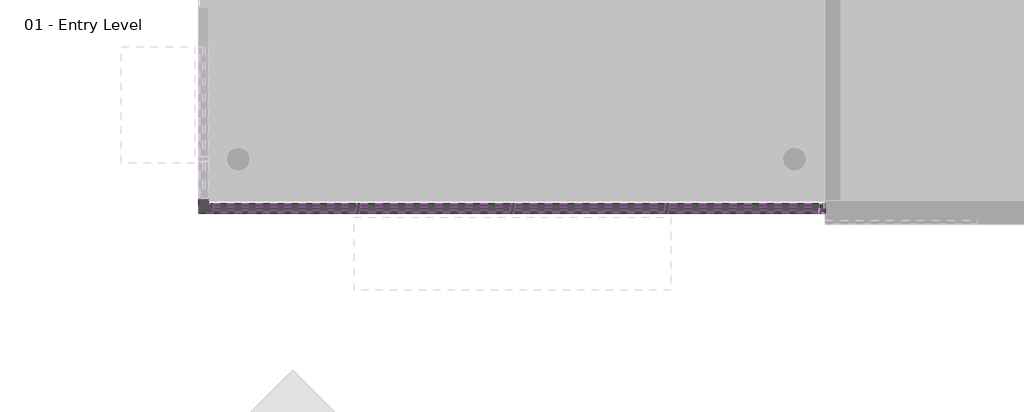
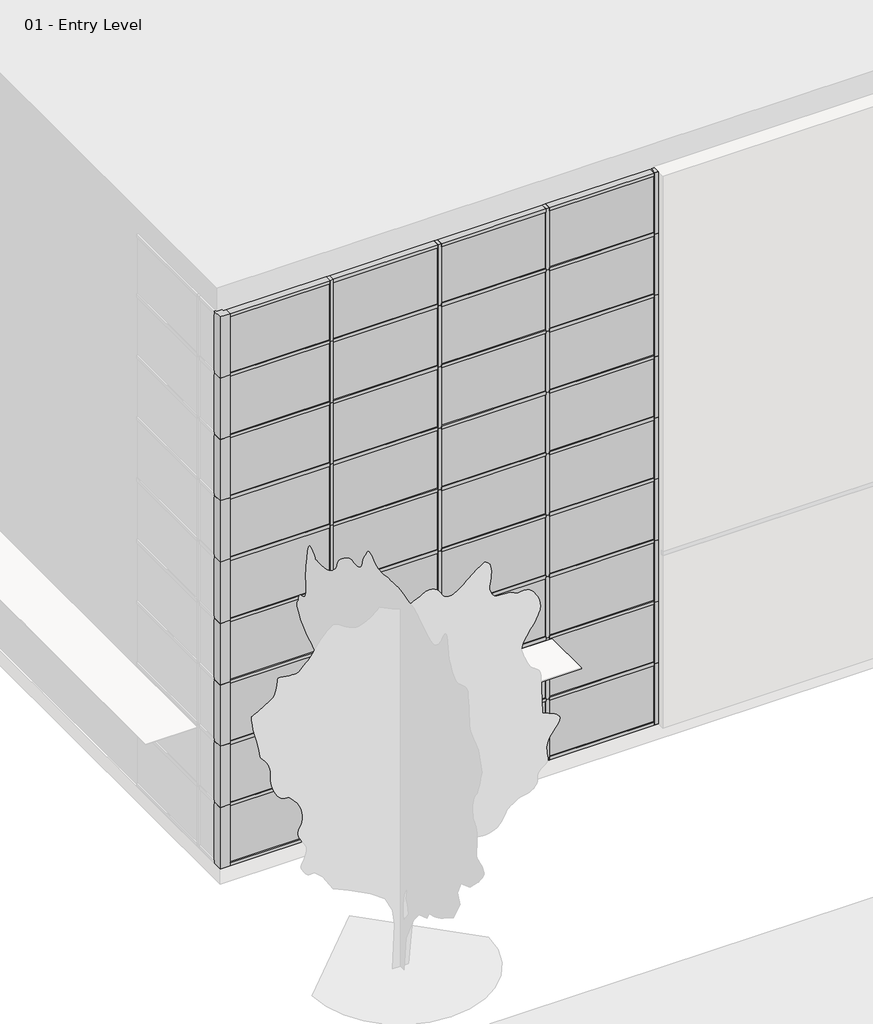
# One storey, part 1 of 34: 93 members, 36 plates.
"""IFC4 building model written with IfcOpenShell, lengths in millimetres."""

from ifc_helpers import new_model, si_unit, origin, place, context, project, spatial, transform, mapped, element, save
from components import member_6230916f, member_2b49869a, member_75074519, member_391b434c, member_9e90ae50, member_9822c4e5, member_b50b2218, system_panel_glazed_1b9d6098, system_panel_glazed_70da479d, system_panel_glazed_01db37db, system_panel_glazed_0a464ab8, system_panel_solid_b376696c, system_panel_solid_77e8b053, system_panel_solid_7d77b356, system_panel_solid_9c486990

model = new_model("IFC4")

# Units and contexts
model_context = context("Model", 3, world=origin())
ifc_project = project(units=[si_unit("LENGTHUNIT", "METRE", prefix="MILLI")], contexts=[model_context])

# Site, building, storey
site = spatial("IfcSite", under=ifc_project)
building = spatial("IfcBuilding", under=site)
storey = spatial("IfcBuildingStorey", under=building, Name="01 - Entry Level", Elevation=0.0)

# Members
placement = place(None, origin())
member_shape = member_6230916f(model_context)
element("IfcMember", 1, ObjectType="L Corner Mullion : 5\" x 5\" Corner", at=placement, inside=storey, context=model_context, shape_type="MappedRepresentation", body=[
    mapped(member_shape, transform((178.7207476, -47.7, 10972.8), x_axis=(-1.0, 0.0, 0.0), y_axis=(0.0, -1.0, 0.0), z_axis=(0.0, 0.0, 1.0))),
])
element("IfcMember", 2, ObjectType="L Corner Mullion : 5\" x 5\" Corner", at=placement, inside=storey, context=model_context, shape_type="MappedRepresentation", body=[
    mapped(member_shape, transform((178.7207476, -47.7, 1219.2), x_axis=(-1.0, 0.0, 0.0), y_axis=(0.0, -1.0, 0.0), z_axis=(0.0, 0.0, 1.0))),
])
element("IfcMember", 3, ObjectType="L Corner Mullion : 5\" x 5\" Corner", at=placement, inside=storey, context=model_context, shape_type="MappedRepresentation", body=[
    mapped(member_shape, transform((178.7207476, -47.7, 2438.4), x_axis=(-1.0, 0.0, 0.0), y_axis=(0.0, -1.0, 0.0), z_axis=(0.0, 0.0, 1.0))),
])
element("IfcMember", 4, ObjectType="L Corner Mullion : 5\" x 5\" Corner", at=placement, inside=storey, context=model_context, shape_type="MappedRepresentation", body=[
    mapped(member_shape, transform((178.7207476, -47.7, 3657.6), x_axis=(-1.0, 0.0, 0.0), y_axis=(0.0, -1.0, 0.0), z_axis=(0.0, 0.0, 1.0))),
])
element("IfcMember", 5, ObjectType="L Corner Mullion : 5\" x 5\" Corner", at=placement, inside=storey, context=model_context, shape_type="MappedRepresentation", body=[
    mapped(member_shape, transform((178.7207476, -47.7, 4876.8), x_axis=(-1.0, 0.0, 0.0), y_axis=(0.0, -1.0, 0.0), z_axis=(0.0, 0.0, 1.0))),
])
element("IfcMember", 6, ObjectType="L Corner Mullion : 5\" x 5\" Corner", at=placement, inside=storey, context=model_context, shape_type="MappedRepresentation", body=[
    mapped(member_shape, transform((178.7207476, -47.7, 6096.0), x_axis=(-1.0, 0.0, 0.0), y_axis=(0.0, -1.0, 0.0), z_axis=(0.0, 0.0, 1.0))),
])
element("IfcMember", 7, ObjectType="L Corner Mullion : 5\" x 5\" Corner", at=placement, inside=storey, context=model_context, shape_type="MappedRepresentation", body=[
    mapped(member_shape, transform((178.7207476, -47.7, 7315.2), x_axis=(-1.0, 0.0, 0.0), y_axis=(0.0, -1.0, 0.0), z_axis=(0.0, 0.0, 1.0))),
])
element("IfcMember", 8, ObjectType="L Corner Mullion : 5\" x 5\" Corner", at=placement, inside=storey, context=model_context, shape_type="MappedRepresentation", body=[
    mapped(member_shape, transform((178.7207476, -47.7, 8534.4), x_axis=(-1.0, 0.0, 0.0), y_axis=(0.0, -1.0, 0.0), z_axis=(0.0, 0.0, 1.0))),
])
element("IfcMember", 9, ObjectType="L Corner Mullion : 5\" x 5\" Corner", at=placement, inside=storey, context=model_context, shape_type="MappedRepresentation", body=[
    mapped(member_shape, transform((178.7207476, -47.7, 9753.6), x_axis=(-1.0, 0.0, 0.0), y_axis=(0.0, -1.0, 0.0), z_axis=(0.0, 0.0, 1.0))),
])
member_2_shape = member_2b49869a(model_context)
element("IfcMember", 10, ObjectType="Rectangular Mullion : 2.5\" x 5\" rectangular", at=placement, inside=storey, context=model_context, shape_type="MappedRepresentation", body=[
    mapped(member_2_shape, transform((2210.7207476, -47.7, 9753.6), x_axis=(1.0, 0.0, 0.0), y_axis=(0.0, -1.0, 0.0), z_axis=(0.0, 0.0, -1.0))),
])
element("IfcMember", 11, ObjectType="Rectangular Mullion : 2.5\" x 5\" rectangular", at=placement, inside=storey, context=model_context, shape_type="MappedRepresentation", body=[
    mapped(member_2_shape, transform((4242.7207476, -47.7, 9753.6), x_axis=(1.0, 0.0, 0.0), y_axis=(0.0, -1.0, 0.0), z_axis=(0.0, 0.0, -1.0))),
])
element("IfcMember", 12, ObjectType="Rectangular Mullion : 2.5\" x 5\" rectangular", at=placement, inside=storey, context=model_context, shape_type="MappedRepresentation", body=[
    mapped(member_2_shape, transform((6274.7207476, -47.7, 9753.6), x_axis=(1.0, 0.0, 0.0), y_axis=(0.0, -1.0, 0.0), z_axis=(0.0, 0.0, -1.0))),
])
member_3_shape = member_75074519(model_context)
element("IfcMember", 13, ObjectType="Rectangular Mullion : 2.5\" x 5\" rectangular", at=placement, inside=storey, context=model_context, shape_type="MappedRepresentation", body=[
    mapped(member_3_shape, transform((8357.5207476, -47.7, 9753.6), x_axis=(1.0, 0.0, 0.0), y_axis=(0.0, -1.0, 0.0), z_axis=(0.0, 0.0, -1.0))),
])
member_4_shape = member_391b434c(model_context)
element("IfcMember", 14, ObjectType="Rectangular Mullion : 2.5\" x 5\" rectangular", at=placement, inside=storey, context=model_context, shape_type="MappedRepresentation", body=[
    mapped(member_4_shape, transform((4210.9707476, -47.7, 10972.8), x_axis=(0.0, 0.0, 1.0), y_axis=(0.0, -1.0, 0.0), z_axis=(1.0, 0.0, 0.0))),
])
element("IfcMember", 15, ObjectType="Rectangular Mullion : 2.5\" x 5\" rectangular", at=placement, inside=storey, context=model_context, shape_type="MappedRepresentation", body=[
    mapped(member_4_shape, transform((6242.9707476, -47.7, 10972.8), x_axis=(0.0, 0.0, 1.0), y_axis=(0.0, -1.0, 0.0), z_axis=(1.0, 0.0, 0.0))),
])
element("IfcMember", 16, ObjectType="Rectangular Mullion : 2.5\" x 5\" rectangular", at=placement, inside=storey, context=model_context, shape_type="MappedRepresentation", body=[
    mapped(member_4_shape, transform((8274.9707476, -47.7, 10972.8), x_axis=(0.0, 0.0, 1.0), y_axis=(0.0, -1.0, 0.0), z_axis=(1.0, 0.0, 0.0))),
])
element("IfcMember", 17, ObjectType="Rectangular Mullion : 2.5\" x 5\" rectangular", at=placement, inside=storey, context=model_context, shape_type="MappedRepresentation", body=[
    mapped(member_4_shape, transform((2242.4707476, -47.7, 0.0), x_axis=(0.0, 0.0, -1.0), y_axis=(0.0, -1.0, 0.0), z_axis=(-1.0, 0.0, 0.0))),
])
element("IfcMember", 18, ObjectType="Rectangular Mullion : 2.5\" x 5\" rectangular", at=placement, inside=storey, context=model_context, shape_type="MappedRepresentation", body=[
    mapped(member_4_shape, transform((4274.4707476, -47.7, 0.0), x_axis=(0.0, 0.0, -1.0), y_axis=(0.0, -1.0, 0.0), z_axis=(-1.0, 0.0, 0.0))),
])
element("IfcMember", 19, ObjectType="Rectangular Mullion : 2.5\" x 5\" rectangular", at=placement, inside=storey, context=model_context, shape_type="MappedRepresentation", body=[
    mapped(member_4_shape, transform((6306.4707476, -47.7, 0.0), x_axis=(0.0, 0.0, -1.0), y_axis=(0.0, -1.0, 0.0), z_axis=(-1.0, 0.0, 0.0))),
])
member_5_shape = member_9e90ae50(model_context)
element("IfcMember", 20, ObjectType="Rectangular Mullion : 2.5\" x 5\" rectangular", at=placement, inside=storey, context=model_context, shape_type="MappedRepresentation", body=[
    mapped(member_5_shape, transform((4210.9707476, -47.7, 1219.2), x_axis=(0.0, 0.0, 1.0), y_axis=(0.0, -1.0, 0.0), z_axis=(1.0, 0.0, 0.0))),
])
element("IfcMember", 21, ObjectType="Rectangular Mullion : 2.5\" x 5\" rectangular", at=placement, inside=storey, context=model_context, shape_type="MappedRepresentation", body=[
    mapped(member_5_shape, transform((6242.9707476, -47.7, 1219.2), x_axis=(0.0, 0.0, 1.0), y_axis=(0.0, -1.0, 0.0), z_axis=(1.0, 0.0, 0.0))),
])
element("IfcMember", 22, ObjectType="Rectangular Mullion : 2.5\" x 5\" rectangular", at=placement, inside=storey, context=model_context, shape_type="MappedRepresentation", body=[
    mapped(member_5_shape, transform((8274.9707476, -47.7, 1219.2), x_axis=(0.0, 0.0, 1.0), y_axis=(0.0, -1.0, 0.0), z_axis=(1.0, 0.0, 0.0))),
])
element("IfcMember", 23, ObjectType="Rectangular Mullion : 2.5\" x 5\" rectangular", at=placement, inside=storey, context=model_context, shape_type="MappedRepresentation", body=[
    mapped(member_5_shape, transform((4210.9707476, -47.7, 2438.4), x_axis=(0.0, 0.0, 1.0), y_axis=(0.0, -1.0, 0.0), z_axis=(1.0, 0.0, 0.0))),
])
element("IfcMember", 24, ObjectType="Rectangular Mullion : 2.5\" x 5\" rectangular", at=placement, inside=storey, context=model_context, shape_type="MappedRepresentation", body=[
    mapped(member_5_shape, transform((6242.9707476, -47.7, 2438.4), x_axis=(0.0, 0.0, 1.0), y_axis=(0.0, -1.0, 0.0), z_axis=(1.0, 0.0, 0.0))),
])
element("IfcMember", 25, ObjectType="Rectangular Mullion : 2.5\" x 5\" rectangular", at=placement, inside=storey, context=model_context, shape_type="MappedRepresentation", body=[
    mapped(member_5_shape, transform((8274.9707476, -47.7, 2438.4), x_axis=(0.0, 0.0, 1.0), y_axis=(0.0, -1.0, 0.0), z_axis=(1.0, 0.0, 0.0))),
])
element("IfcMember", 26, ObjectType="Rectangular Mullion : 2.5\" x 5\" rectangular", at=placement, inside=storey, context=model_context, shape_type="MappedRepresentation", body=[
    mapped(member_5_shape, transform((4210.9707476, -47.7, 3657.6), x_axis=(0.0, 0.0, 1.0), y_axis=(0.0, -1.0, 0.0), z_axis=(1.0, 0.0, 0.0))),
])
element("IfcMember", 27, ObjectType="Rectangular Mullion : 2.5\" x 5\" rectangular", at=placement, inside=storey, context=model_context, shape_type="MappedRepresentation", body=[
    mapped(member_5_shape, transform((6242.9707476, -47.7, 3657.6), x_axis=(0.0, 0.0, 1.0), y_axis=(0.0, -1.0, 0.0), z_axis=(1.0, 0.0, 0.0))),
])
element("IfcMember", 28, ObjectType="Rectangular Mullion : 2.5\" x 5\" rectangular", at=placement, inside=storey, context=model_context, shape_type="MappedRepresentation", body=[
    mapped(member_5_shape, transform((8274.9707476, -47.7, 3657.6), x_axis=(0.0, 0.0, 1.0), y_axis=(0.0, -1.0, 0.0), z_axis=(1.0, 0.0, 0.0))),
])
element("IfcMember", 29, ObjectType="Rectangular Mullion : 2.5\" x 5\" rectangular", at=placement, inside=storey, context=model_context, shape_type="MappedRepresentation", body=[
    mapped(member_5_shape, transform((4210.9707476, -47.7, 4876.8), x_axis=(0.0, 0.0, 1.0), y_axis=(0.0, -1.0, 0.0), z_axis=(1.0, 0.0, 0.0))),
])
element("IfcMember", 30, ObjectType="Rectangular Mullion : 2.5\" x 5\" rectangular", at=placement, inside=storey, context=model_context, shape_type="MappedRepresentation", body=[
    mapped(member_5_shape, transform((6242.9707476, -47.7, 4876.8), x_axis=(0.0, 0.0, 1.0), y_axis=(0.0, -1.0, 0.0), z_axis=(1.0, 0.0, 0.0))),
])
element("IfcMember", 31, ObjectType="Rectangular Mullion : 2.5\" x 5\" rectangular", at=placement, inside=storey, context=model_context, shape_type="MappedRepresentation", body=[
    mapped(member_5_shape, transform((8274.9707476, -47.7, 4876.8), x_axis=(0.0, 0.0, 1.0), y_axis=(0.0, -1.0, 0.0), z_axis=(1.0, 0.0, 0.0))),
])
element("IfcMember", 32, ObjectType="Rectangular Mullion : 2.5\" x 5\" rectangular", at=placement, inside=storey, context=model_context, shape_type="MappedRepresentation", body=[
    mapped(member_5_shape, transform((4210.9707476, -47.7, 6096.0), x_axis=(0.0, 0.0, 1.0), y_axis=(0.0, -1.0, 0.0), z_axis=(1.0, 0.0, 0.0))),
])
element("IfcMember", 33, ObjectType="Rectangular Mullion : 2.5\" x 5\" rectangular", at=placement, inside=storey, context=model_context, shape_type="MappedRepresentation", body=[
    mapped(member_5_shape, transform((6242.9707476, -47.7, 6096.0), x_axis=(0.0, 0.0, 1.0), y_axis=(0.0, -1.0, 0.0), z_axis=(1.0, 0.0, 0.0))),
])
element("IfcMember", 34, ObjectType="Rectangular Mullion : 2.5\" x 5\" rectangular", at=placement, inside=storey, context=model_context, shape_type="MappedRepresentation", body=[
    mapped(member_5_shape, transform((8274.9707476, -47.7, 6096.0), x_axis=(0.0, 0.0, 1.0), y_axis=(0.0, -1.0, 0.0), z_axis=(1.0, 0.0, 0.0))),
])
element("IfcMember", 35, ObjectType="Rectangular Mullion : 2.5\" x 5\" rectangular", at=placement, inside=storey, context=model_context, shape_type="MappedRepresentation", body=[
    mapped(member_5_shape, transform((4210.9707476, -47.7, 7315.2), x_axis=(0.0, 0.0, 1.0), y_axis=(0.0, -1.0, 0.0), z_axis=(1.0, 0.0, 0.0))),
])
element("IfcMember", 36, ObjectType="Rectangular Mullion : 2.5\" x 5\" rectangular", at=placement, inside=storey, context=model_context, shape_type="MappedRepresentation", body=[
    mapped(member_5_shape, transform((6242.9707476, -47.7, 7315.2), x_axis=(0.0, 0.0, 1.0), y_axis=(0.0, -1.0, 0.0), z_axis=(1.0, 0.0, 0.0))),
])
element("IfcMember", 37, ObjectType="Rectangular Mullion : 2.5\" x 5\" rectangular", at=placement, inside=storey, context=model_context, shape_type="MappedRepresentation", body=[
    mapped(member_5_shape, transform((8274.9707476, -47.7, 7315.2), x_axis=(0.0, 0.0, 1.0), y_axis=(0.0, -1.0, 0.0), z_axis=(1.0, 0.0, 0.0))),
])
element("IfcMember", 38, ObjectType="Rectangular Mullion : 2.5\" x 5\" rectangular", at=placement, inside=storey, context=model_context, shape_type="MappedRepresentation", body=[
    mapped(member_5_shape, transform((4210.9707476, -47.7, 8534.4), x_axis=(0.0, 0.0, 1.0), y_axis=(0.0, -1.0, 0.0), z_axis=(1.0, 0.0, 0.0))),
])
element("IfcMember", 39, ObjectType="Rectangular Mullion : 2.5\" x 5\" rectangular", at=placement, inside=storey, context=model_context, shape_type="MappedRepresentation", body=[
    mapped(member_5_shape, transform((6242.9707476, -47.7, 8534.4), x_axis=(0.0, 0.0, 1.0), y_axis=(0.0, -1.0, 0.0), z_axis=(1.0, 0.0, 0.0))),
])
element("IfcMember", 40, ObjectType="Rectangular Mullion : 2.5\" x 5\" rectangular", at=placement, inside=storey, context=model_context, shape_type="MappedRepresentation", body=[
    mapped(member_5_shape, transform((8274.9707476, -47.7, 8534.4), x_axis=(0.0, 0.0, 1.0), y_axis=(0.0, -1.0, 0.0), z_axis=(1.0, 0.0, 0.0))),
])
element("IfcMember", 41, ObjectType="Rectangular Mullion : 2.5\" x 5\" rectangular", at=placement, inside=storey, context=model_context, shape_type="MappedRepresentation", body=[
    mapped(member_5_shape, transform((4210.9707476, -47.7, 9753.6), x_axis=(0.0, 0.0, 1.0), y_axis=(0.0, -1.0, 0.0), z_axis=(1.0, 0.0, 0.0))),
])
element("IfcMember", 42, ObjectType="Rectangular Mullion : 2.5\" x 5\" rectangular", at=placement, inside=storey, context=model_context, shape_type="MappedRepresentation", body=[
    mapped(member_5_shape, transform((6242.9707476, -47.7, 9753.6), x_axis=(0.0, 0.0, 1.0), y_axis=(0.0, -1.0, 0.0), z_axis=(1.0, 0.0, 0.0))),
])
element("IfcMember", 43, ObjectType="Rectangular Mullion : 2.5\" x 5\" rectangular", at=placement, inside=storey, context=model_context, shape_type="MappedRepresentation", body=[
    mapped(member_5_shape, transform((8274.9707476, -47.7, 9753.6), x_axis=(0.0, 0.0, 1.0), y_axis=(0.0, -1.0, 0.0), z_axis=(1.0, 0.0, 0.0))),
])
element("IfcMember", 44, ObjectType="Rectangular Mullion : 2.5\" x 5\" rectangular", at=placement, inside=storey, context=model_context, shape_type="MappedRepresentation", body=[
    mapped(member_2_shape, transform((2210.7207476, -47.7, 0.0), x_axis=(1.0, 0.0, 0.0), y_axis=(0.0, -1.0, 0.0), z_axis=(0.0, 0.0, -1.0))),
])
element("IfcMember", 45, ObjectType="Rectangular Mullion : 2.5\" x 5\" rectangular", at=placement, inside=storey, context=model_context, shape_type="MappedRepresentation", body=[
    mapped(member_2_shape, transform((4242.7207476, -47.7, 0.0), x_axis=(1.0, 0.0, 0.0), y_axis=(0.0, -1.0, 0.0), z_axis=(0.0, 0.0, -1.0))),
])
element("IfcMember", 46, ObjectType="Rectangular Mullion : 2.5\" x 5\" rectangular", at=placement, inside=storey, context=model_context, shape_type="MappedRepresentation", body=[
    mapped(member_2_shape, transform((6274.7207476, -47.7, 0.0), x_axis=(1.0, 0.0, 0.0), y_axis=(0.0, -1.0, 0.0), z_axis=(0.0, 0.0, -1.0))),
])
element("IfcMember", 47, ObjectType="Rectangular Mullion : 2.5\" x 5\" rectangular", at=placement, inside=storey, context=model_context, shape_type="MappedRepresentation", body=[
    mapped(member_2_shape, transform((8306.7207476, -47.7, 0.0), x_axis=(1.0, 0.0, 0.0), y_axis=(0.0, -1.0, 0.0), z_axis=(0.0, 0.0, -1.0))),
])
element("IfcMember", 48, ObjectType="Rectangular Mullion : 2.5\" x 5\" rectangular", at=placement, inside=storey, context=model_context, shape_type="MappedRepresentation", body=[
    mapped(member_2_shape, transform((2210.7207476, -47.7, 1219.2), x_axis=(1.0, 0.0, 0.0), y_axis=(0.0, -1.0, 0.0), z_axis=(0.0, 0.0, -1.0))),
])
element("IfcMember", 49, ObjectType="Rectangular Mullion : 2.5\" x 5\" rectangular", at=placement, inside=storey, context=model_context, shape_type="MappedRepresentation", body=[
    mapped(member_2_shape, transform((4242.7207476, -47.7, 1219.2), x_axis=(1.0, 0.0, 0.0), y_axis=(0.0, -1.0, 0.0), z_axis=(0.0, 0.0, -1.0))),
])
element("IfcMember", 50, ObjectType="Rectangular Mullion : 2.5\" x 5\" rectangular", at=placement, inside=storey, context=model_context, shape_type="MappedRepresentation", body=[
    mapped(member_2_shape, transform((6274.7207476, -47.7, 1219.2), x_axis=(1.0, 0.0, 0.0), y_axis=(0.0, -1.0, 0.0), z_axis=(0.0, 0.0, -1.0))),
])
element("IfcMember", 51, ObjectType="Rectangular Mullion : 2.5\" x 5\" rectangular", at=placement, inside=storey, context=model_context, shape_type="MappedRepresentation", body=[
    mapped(member_2_shape, transform((2210.7207476, -47.7, 2438.4), x_axis=(1.0, 0.0, 0.0), y_axis=(0.0, -1.0, 0.0), z_axis=(0.0, 0.0, -1.0))),
])
element("IfcMember", 52, ObjectType="Rectangular Mullion : 2.5\" x 5\" rectangular", at=placement, inside=storey, context=model_context, shape_type="MappedRepresentation", body=[
    mapped(member_2_shape, transform((4242.7207476, -47.7, 2438.4), x_axis=(1.0, 0.0, 0.0), y_axis=(0.0, -1.0, 0.0), z_axis=(0.0, 0.0, -1.0))),
])
element("IfcMember", 53, ObjectType="Rectangular Mullion : 2.5\" x 5\" rectangular", at=placement, inside=storey, context=model_context, shape_type="MappedRepresentation", body=[
    mapped(member_2_shape, transform((6274.7207476, -47.7, 2438.4), x_axis=(1.0, 0.0, 0.0), y_axis=(0.0, -1.0, 0.0), z_axis=(0.0, 0.0, -1.0))),
])
element("IfcMember", 54, ObjectType="Rectangular Mullion : 2.5\" x 5\" rectangular", at=placement, inside=storey, context=model_context, shape_type="MappedRepresentation", body=[
    mapped(member_2_shape, transform((2210.7207476, -47.7, 3657.6), x_axis=(1.0, 0.0, 0.0), y_axis=(0.0, -1.0, 0.0), z_axis=(0.0, 0.0, -1.0))),
])
element("IfcMember", 55, ObjectType="Rectangular Mullion : 2.5\" x 5\" rectangular", at=placement, inside=storey, context=model_context, shape_type="MappedRepresentation", body=[
    mapped(member_2_shape, transform((4242.7207476, -47.7, 3657.6), x_axis=(1.0, 0.0, 0.0), y_axis=(0.0, -1.0, 0.0), z_axis=(0.0, 0.0, -1.0))),
])
element("IfcMember", 56, ObjectType="Rectangular Mullion : 2.5\" x 5\" rectangular", at=placement, inside=storey, context=model_context, shape_type="MappedRepresentation", body=[
    mapped(member_2_shape, transform((6274.7207476, -47.7, 3657.6), x_axis=(1.0, 0.0, 0.0), y_axis=(0.0, -1.0, 0.0), z_axis=(0.0, 0.0, -1.0))),
])
element("IfcMember", 57, ObjectType="Rectangular Mullion : 2.5\" x 5\" rectangular", at=placement, inside=storey, context=model_context, shape_type="MappedRepresentation", body=[
    mapped(member_2_shape, transform((2210.7207476, -47.7, 4876.8), x_axis=(1.0, 0.0, 0.0), y_axis=(0.0, -1.0, 0.0), z_axis=(0.0, 0.0, -1.0))),
])
element("IfcMember", 58, ObjectType="Rectangular Mullion : 2.5\" x 5\" rectangular", at=placement, inside=storey, context=model_context, shape_type="MappedRepresentation", body=[
    mapped(member_2_shape, transform((4242.7207476, -47.7, 4876.8), x_axis=(1.0, 0.0, 0.0), y_axis=(0.0, -1.0, 0.0), z_axis=(0.0, 0.0, -1.0))),
])
element("IfcMember", 59, ObjectType="Rectangular Mullion : 2.5\" x 5\" rectangular", at=placement, inside=storey, context=model_context, shape_type="MappedRepresentation", body=[
    mapped(member_2_shape, transform((6274.7207476, -47.7, 4876.8), x_axis=(1.0, 0.0, 0.0), y_axis=(0.0, -1.0, 0.0), z_axis=(0.0, 0.0, -1.0))),
])
element("IfcMember", 60, ObjectType="Rectangular Mullion : 2.5\" x 5\" rectangular", at=placement, inside=storey, context=model_context, shape_type="MappedRepresentation", body=[
    mapped(member_2_shape, transform((2210.7207476, -47.7, 6096.0), x_axis=(1.0, 0.0, 0.0), y_axis=(0.0, -1.0, 0.0), z_axis=(0.0, 0.0, -1.0))),
])
element("IfcMember", 61, ObjectType="Rectangular Mullion : 2.5\" x 5\" rectangular", at=placement, inside=storey, context=model_context, shape_type="MappedRepresentation", body=[
    mapped(member_2_shape, transform((4242.7207476, -47.7, 6096.0), x_axis=(1.0, 0.0, 0.0), y_axis=(0.0, -1.0, 0.0), z_axis=(0.0, 0.0, -1.0))),
])
element("IfcMember", 62, ObjectType="Rectangular Mullion : 2.5\" x 5\" rectangular", at=placement, inside=storey, context=model_context, shape_type="MappedRepresentation", body=[
    mapped(member_2_shape, transform((6274.7207476, -47.7, 6096.0), x_axis=(1.0, 0.0, 0.0), y_axis=(0.0, -1.0, 0.0), z_axis=(0.0, 0.0, -1.0))),
])
element("IfcMember", 63, ObjectType="Rectangular Mullion : 2.5\" x 5\" rectangular", at=placement, inside=storey, context=model_context, shape_type="MappedRepresentation", body=[
    mapped(member_2_shape, transform((2210.7207476, -47.7, 7315.2), x_axis=(1.0, 0.0, 0.0), y_axis=(0.0, -1.0, 0.0), z_axis=(0.0, 0.0, -1.0))),
])
element("IfcMember", 64, ObjectType="Rectangular Mullion : 2.5\" x 5\" rectangular", at=placement, inside=storey, context=model_context, shape_type="MappedRepresentation", body=[
    mapped(member_2_shape, transform((4242.7207476, -47.7, 7315.2), x_axis=(1.0, 0.0, 0.0), y_axis=(0.0, -1.0, 0.0), z_axis=(0.0, 0.0, -1.0))),
])
element("IfcMember", 65, ObjectType="Rectangular Mullion : 2.5\" x 5\" rectangular", at=placement, inside=storey, context=model_context, shape_type="MappedRepresentation", body=[
    mapped(member_2_shape, transform((6274.7207476, -47.7, 7315.2), x_axis=(1.0, 0.0, 0.0), y_axis=(0.0, -1.0, 0.0), z_axis=(0.0, 0.0, -1.0))),
])
element("IfcMember", 66, ObjectType="Rectangular Mullion : 2.5\" x 5\" rectangular", at=placement, inside=storey, context=model_context, shape_type="MappedRepresentation", body=[
    mapped(member_2_shape, transform((2210.7207476, -47.7, 8534.4), x_axis=(1.0, 0.0, 0.0), y_axis=(0.0, -1.0, 0.0), z_axis=(0.0, 0.0, -1.0))),
])
element("IfcMember", 67, ObjectType="Rectangular Mullion : 2.5\" x 5\" rectangular", at=placement, inside=storey, context=model_context, shape_type="MappedRepresentation", body=[
    mapped(member_2_shape, transform((4242.7207476, -47.7, 8534.4), x_axis=(1.0, 0.0, 0.0), y_axis=(0.0, -1.0, 0.0), z_axis=(0.0, 0.0, -1.0))),
])
element("IfcMember", 68, ObjectType="Rectangular Mullion : 2.5\" x 5\" rectangular", at=placement, inside=storey, context=model_context, shape_type="MappedRepresentation", body=[
    mapped(member_2_shape, transform((6274.7207476, -47.7, 8534.4), x_axis=(1.0, 0.0, 0.0), y_axis=(0.0, -1.0, 0.0), z_axis=(0.0, 0.0, -1.0))),
])
element("IfcMember", 69, ObjectType="Rectangular Mullion : 2.5\" x 5\" rectangular", at=placement, inside=storey, context=model_context, shape_type="MappedRepresentation", body=[
    mapped(member_2_shape, transform((8306.7207476, -47.7, 1219.2), x_axis=(1.0, 0.0, 0.0), y_axis=(0.0, -1.0, 0.0), z_axis=(0.0, 0.0, -1.0))),
])
element("IfcMember", 70, ObjectType="Rectangular Mullion : 2.5\" x 5\" rectangular", at=placement, inside=storey, context=model_context, shape_type="MappedRepresentation", body=[
    mapped(member_2_shape, transform((8306.7207476, -47.7, 2438.4), x_axis=(1.0, 0.0, 0.0), y_axis=(0.0, -1.0, 0.0), z_axis=(0.0, 0.0, -1.0))),
])
element("IfcMember", 71, ObjectType="Rectangular Mullion : 2.5\" x 5\" rectangular", at=placement, inside=storey, context=model_context, shape_type="MappedRepresentation", body=[
    mapped(member_2_shape, transform((8306.7207476, -47.7, 3657.6), x_axis=(1.0, 0.0, 0.0), y_axis=(0.0, -1.0, 0.0), z_axis=(0.0, 0.0, -1.0))),
])
element("IfcMember", 72, ObjectType="Rectangular Mullion : 2.5\" x 5\" rectangular", at=placement, inside=storey, context=model_context, shape_type="MappedRepresentation", body=[
    mapped(member_2_shape, transform((8306.7207476, -47.7, 4876.8), x_axis=(1.0, 0.0, 0.0), y_axis=(0.0, -1.0, 0.0), z_axis=(0.0, 0.0, -1.0))),
])
element("IfcMember", 73, ObjectType="Rectangular Mullion : 2.5\" x 5\" rectangular", at=placement, inside=storey, context=model_context, shape_type="MappedRepresentation", body=[
    mapped(member_2_shape, transform((8306.7207476, -47.7, 6096.0), x_axis=(1.0, 0.0, 0.0), y_axis=(0.0, -1.0, 0.0), z_axis=(0.0, 0.0, -1.0))),
])
element("IfcMember", 74, ObjectType="Rectangular Mullion : 2.5\" x 5\" rectangular", at=placement, inside=storey, context=model_context, shape_type="MappedRepresentation", body=[
    mapped(member_2_shape, transform((8306.7207476, -47.7, 7315.2), x_axis=(1.0, 0.0, 0.0), y_axis=(0.0, -1.0, 0.0), z_axis=(0.0, 0.0, -1.0))),
])
element("IfcMember", 75, ObjectType="Rectangular Mullion : 2.5\" x 5\" rectangular", at=placement, inside=storey, context=model_context, shape_type="MappedRepresentation", body=[
    mapped(member_2_shape, transform((8306.7207476, -47.7, 8534.4), x_axis=(1.0, 0.0, 0.0), y_axis=(0.0, -1.0, 0.0), z_axis=(0.0, 0.0, -1.0))),
])
element("IfcMember", 76, ObjectType="Rectangular Mullion : 2.5\" x 5\" rectangular", at=placement, inside=storey, context=model_context, shape_type="MappedRepresentation", body=[
    mapped(member_3_shape, transform((8357.5207476, -47.7, 0.0), x_axis=(1.0, 0.0, 0.0), y_axis=(0.0, -1.0, 0.0), z_axis=(0.0, 0.0, -1.0))),
])
element("IfcMember", 77, ObjectType="Rectangular Mullion : 2.5\" x 5\" rectangular", at=placement, inside=storey, context=model_context, shape_type="MappedRepresentation", body=[
    mapped(member_3_shape, transform((8357.5207476, -47.7, 1219.2), x_axis=(1.0, 0.0, 0.0), y_axis=(0.0, -1.0, 0.0), z_axis=(0.0, 0.0, -1.0))),
])
element("IfcMember", 78, ObjectType="Rectangular Mullion : 2.5\" x 5\" rectangular", at=placement, inside=storey, context=model_context, shape_type="MappedRepresentation", body=[
    mapped(member_3_shape, transform((8357.5207476, -47.7, 2438.4), x_axis=(1.0, 0.0, 0.0), y_axis=(0.0, -1.0, 0.0), z_axis=(0.0, 0.0, -1.0))),
])
element("IfcMember", 79, ObjectType="Rectangular Mullion : 2.5\" x 5\" rectangular", at=placement, inside=storey, context=model_context, shape_type="MappedRepresentation", body=[
    mapped(member_3_shape, transform((8357.5207476, -47.7, 3657.6), x_axis=(1.0, 0.0, 0.0), y_axis=(0.0, -1.0, 0.0), z_axis=(0.0, 0.0, -1.0))),
])
element("IfcMember", 80, ObjectType="Rectangular Mullion : 2.5\" x 5\" rectangular", at=placement, inside=storey, context=model_context, shape_type="MappedRepresentation", body=[
    mapped(member_3_shape, transform((8357.5207476, -47.7, 4876.8), x_axis=(1.0, 0.0, 0.0), y_axis=(0.0, -1.0, 0.0), z_axis=(0.0, 0.0, -1.0))),
])
element("IfcMember", 81, ObjectType="Rectangular Mullion : 2.5\" x 5\" rectangular", at=placement, inside=storey, context=model_context, shape_type="MappedRepresentation", body=[
    mapped(member_3_shape, transform((8357.5207476, -47.7, 6096.0), x_axis=(1.0, 0.0, 0.0), y_axis=(0.0, -1.0, 0.0), z_axis=(0.0, 0.0, -1.0))),
])
element("IfcMember", 82, ObjectType="Rectangular Mullion : 2.5\" x 5\" rectangular", at=placement, inside=storey, context=model_context, shape_type="MappedRepresentation", body=[
    mapped(member_3_shape, transform((8357.5207476, -47.7, 7315.2), x_axis=(1.0, 0.0, 0.0), y_axis=(0.0, -1.0, 0.0), z_axis=(0.0, 0.0, -1.0))),
])
element("IfcMember", 83, ObjectType="Rectangular Mullion : 2.5\" x 5\" rectangular", at=placement, inside=storey, context=model_context, shape_type="MappedRepresentation", body=[
    mapped(member_3_shape, transform((8357.5207476, -47.7, 8534.4), x_axis=(1.0, 0.0, 0.0), y_axis=(0.0, -1.0, 0.0), z_axis=(0.0, 0.0, -1.0))),
])
member_6_shape = member_9822c4e5(model_context)
element("IfcMember", 84, ObjectType="Rectangular Mullion : 2.5\" x 5\" rectangular", at=placement, inside=storey, context=model_context, shape_type="MappedRepresentation", body=[
    mapped(member_6_shape, transform((2178.9707476, -47.7, 10972.8), x_axis=(0.0, 0.0, 1.0), y_axis=(0.0, -1.0, 0.0), z_axis=(1.0, 0.0, 0.0))),
])
element("IfcMember", 85, ObjectType="Rectangular Mullion : 2.5\" x 5\" rectangular", at=placement, inside=storey, context=model_context, shape_type="MappedRepresentation", body=[
    mapped(member_6_shape, transform((305.7207476, -47.7, 0.0), x_axis=(0.0, 0.0, -1.0), y_axis=(0.0, -1.0, 0.0), z_axis=(-1.0, 0.0, 0.0))),
])
member_7_shape = member_b50b2218(model_context)
element("IfcMember", 86, ObjectType="Rectangular Mullion : 2.5\" x 5\" rectangular", at=placement, inside=storey, context=model_context, shape_type="MappedRepresentation", body=[
    mapped(member_7_shape, transform((2178.9707476, -47.7, 1219.2), x_axis=(0.0, 0.0, 1.0), y_axis=(0.0, -1.0, 0.0), z_axis=(1.0, 0.0, 0.0))),
])
element("IfcMember", 87, ObjectType="Rectangular Mullion : 2.5\" x 5\" rectangular", at=placement, inside=storey, context=model_context, shape_type="MappedRepresentation", body=[
    mapped(member_7_shape, transform((2178.9707476, -47.7, 2438.4), x_axis=(0.0, 0.0, 1.0), y_axis=(0.0, -1.0, 0.0), z_axis=(1.0, 0.0, 0.0))),
])
element("IfcMember", 88, ObjectType="Rectangular Mullion : 2.5\" x 5\" rectangular", at=placement, inside=storey, context=model_context, shape_type="MappedRepresentation", body=[
    mapped(member_7_shape, transform((2178.9707476, -47.7, 3657.6), x_axis=(0.0, 0.0, 1.0), y_axis=(0.0, -1.0, 0.0), z_axis=(1.0, 0.0, 0.0))),
])
element("IfcMember", 89, ObjectType="Rectangular Mullion : 2.5\" x 5\" rectangular", at=placement, inside=storey, context=model_context, shape_type="MappedRepresentation", body=[
    mapped(member_7_shape, transform((2178.9707476, -47.7, 4876.8), x_axis=(0.0, 0.0, 1.0), y_axis=(0.0, -1.0, 0.0), z_axis=(1.0, 0.0, 0.0))),
])
element("IfcMember", 90, ObjectType="Rectangular Mullion : 2.5\" x 5\" rectangular", at=placement, inside=storey, context=model_context, shape_type="MappedRepresentation", body=[
    mapped(member_7_shape, transform((2178.9707476, -47.7, 6096.0), x_axis=(0.0, 0.0, 1.0), y_axis=(0.0, -1.0, 0.0), z_axis=(1.0, 0.0, 0.0))),
])
element("IfcMember", 91, ObjectType="Rectangular Mullion : 2.5\" x 5\" rectangular", at=placement, inside=storey, context=model_context, shape_type="MappedRepresentation", body=[
    mapped(member_7_shape, transform((2178.9707476, -47.7, 7315.2), x_axis=(0.0, 0.0, 1.0), y_axis=(0.0, -1.0, 0.0), z_axis=(1.0, 0.0, 0.0))),
])
element("IfcMember", 92, ObjectType="Rectangular Mullion : 2.5\" x 5\" rectangular", at=placement, inside=storey, context=model_context, shape_type="MappedRepresentation", body=[
    mapped(member_7_shape, transform((2178.9707476, -47.7, 8534.4), x_axis=(0.0, 0.0, 1.0), y_axis=(0.0, -1.0, 0.0), z_axis=(1.0, 0.0, 0.0))),
])
element("IfcMember", 93, ObjectType="Rectangular Mullion : 2.5\" x 5\" rectangular", at=placement, inside=storey, context=model_context, shape_type="MappedRepresentation", body=[
    mapped(member_7_shape, transform((2178.9707476, -47.7, 9753.6), x_axis=(0.0, 0.0, 1.0), y_axis=(0.0, -1.0, 0.0), z_axis=(1.0, 0.0, 0.0))),
])

# Plates
system_panel_glazed_shape = system_panel_glazed_1b9d6098(model_context)
element("IfcPlate", 94, ObjectType="System Panel : Glazed", at=placement, inside=storey, context=model_context, shape_type="MappedRepresentation", body=[
    mapped(system_panel_glazed_shape, transform((3226.7207476, -47.7, 63.5), x_axis=(1.0, 0.0, 0.0), y_axis=(0.0, 1.0, 0.0), z_axis=(0.0, 0.0, 1.0))),
])
element("IfcPlate", 95, ObjectType="System Panel : Glazed", at=placement, inside=storey, context=model_context, shape_type="MappedRepresentation", body=[
    mapped(system_panel_glazed_shape, transform((5258.7207476, -47.7, 63.5), x_axis=(1.0, 0.0, 0.0), y_axis=(0.0, 1.0, 0.0), z_axis=(0.0, 0.0, 1.0))),
])
element("IfcPlate", 96, ObjectType="System Panel : Glazed", at=placement, inside=storey, context=model_context, shape_type="MappedRepresentation", body=[
    mapped(system_panel_glazed_shape, transform((7290.7207476, -47.7, 63.5), x_axis=(1.0, 0.0, 0.0), y_axis=(0.0, 1.0, 0.0), z_axis=(0.0, 0.0, 1.0))),
])
system_panel_glazed_2_shape = system_panel_glazed_70da479d(model_context)
element("IfcPlate", 97, ObjectType="System Panel : Glazed", at=placement, inside=storey, context=model_context, shape_type="MappedRepresentation", body=[
    mapped(system_panel_glazed_2_shape, transform((3226.7207476, -47.7, 1250.95), x_axis=(1.0, 0.0, 0.0), y_axis=(0.0, 1.0, 0.0), z_axis=(0.0, 0.0, 1.0))),
])
element("IfcPlate", 98, ObjectType="System Panel : Glazed", at=placement, inside=storey, context=model_context, shape_type="MappedRepresentation", body=[
    mapped(system_panel_glazed_2_shape, transform((5258.7207476, -47.7, 1250.95), x_axis=(1.0, 0.0, 0.0), y_axis=(0.0, 1.0, 0.0), z_axis=(0.0, 0.0, 1.0))),
])
element("IfcPlate", 99, ObjectType="System Panel : Glazed", at=placement, inside=storey, context=model_context, shape_type="MappedRepresentation", body=[
    mapped(system_panel_glazed_2_shape, transform((7290.7207476, -47.7, 1250.95), x_axis=(1.0, 0.0, 0.0), y_axis=(0.0, 1.0, 0.0), z_axis=(0.0, 0.0, 1.0))),
])
element("IfcPlate", 100, ObjectType="System Panel : Glazed", at=placement, inside=storey, context=model_context, shape_type="MappedRepresentation", body=[
    mapped(system_panel_glazed_2_shape, transform((3226.7207476, -47.7, 3689.35), x_axis=(1.0, 0.0, 0.0), y_axis=(0.0, 1.0, 0.0), z_axis=(0.0, 0.0, 1.0))),
])
element("IfcPlate", 101, ObjectType="System Panel : Glazed", at=placement, inside=storey, context=model_context, shape_type="MappedRepresentation", body=[
    mapped(system_panel_glazed_2_shape, transform((5258.7207476, -47.7, 3689.35), x_axis=(1.0, 0.0, 0.0), y_axis=(0.0, 1.0, 0.0), z_axis=(0.0, 0.0, 1.0))),
])
element("IfcPlate", 102, ObjectType="System Panel : Glazed", at=placement, inside=storey, context=model_context, shape_type="MappedRepresentation", body=[
    mapped(system_panel_glazed_2_shape, transform((7290.7207476, -47.7, 3689.35), x_axis=(1.0, 0.0, 0.0), y_axis=(0.0, 1.0, 0.0), z_axis=(0.0, 0.0, 1.0))),
])
element("IfcPlate", 103, ObjectType="System Panel : Glazed", at=placement, inside=storey, context=model_context, shape_type="MappedRepresentation", body=[
    mapped(system_panel_glazed_2_shape, transform((3226.7207476, -47.7, 4908.55), x_axis=(1.0, 0.0, 0.0), y_axis=(0.0, 1.0, 0.0), z_axis=(0.0, 0.0, 1.0))),
])
element("IfcPlate", 104, ObjectType="System Panel : Glazed", at=placement, inside=storey, context=model_context, shape_type="MappedRepresentation", body=[
    mapped(system_panel_glazed_2_shape, transform((5258.7207476, -47.7, 4908.55), x_axis=(1.0, 0.0, 0.0), y_axis=(0.0, 1.0, 0.0), z_axis=(0.0, 0.0, 1.0))),
])
element("IfcPlate", 105, ObjectType="System Panel : Glazed", at=placement, inside=storey, context=model_context, shape_type="MappedRepresentation", body=[
    mapped(system_panel_glazed_2_shape, transform((7290.7207476, -47.7, 4908.55), x_axis=(1.0, 0.0, 0.0), y_axis=(0.0, 1.0, 0.0), z_axis=(0.0, 0.0, 1.0))),
])
element("IfcPlate", 106, ObjectType="System Panel : Glazed", at=placement, inside=storey, context=model_context, shape_type="MappedRepresentation", body=[
    mapped(system_panel_glazed_2_shape, transform((3226.7207476, -47.7, 7346.95), x_axis=(1.0, 0.0, 0.0), y_axis=(0.0, 1.0, 0.0), z_axis=(0.0, 0.0, 1.0))),
])
element("IfcPlate", 107, ObjectType="System Panel : Glazed", at=placement, inside=storey, context=model_context, shape_type="MappedRepresentation", body=[
    mapped(system_panel_glazed_2_shape, transform((5258.7207476, -47.7, 7346.95), x_axis=(1.0, 0.0, 0.0), y_axis=(0.0, 1.0, 0.0), z_axis=(0.0, 0.0, 1.0))),
])
element("IfcPlate", 108, ObjectType="System Panel : Glazed", at=placement, inside=storey, context=model_context, shape_type="MappedRepresentation", body=[
    mapped(system_panel_glazed_2_shape, transform((7290.7207476, -47.7, 7346.95), x_axis=(1.0, 0.0, 0.0), y_axis=(0.0, 1.0, 0.0), z_axis=(0.0, 0.0, 1.0))),
])
element("IfcPlate", 109, ObjectType="System Panel : Glazed", at=placement, inside=storey, context=model_context, shape_type="MappedRepresentation", body=[
    mapped(system_panel_glazed_2_shape, transform((3226.7207476, -47.7, 8566.15), x_axis=(1.0, 0.0, 0.0), y_axis=(0.0, 1.0, 0.0), z_axis=(0.0, 0.0, 1.0))),
])
element("IfcPlate", 110, ObjectType="System Panel : Glazed", at=placement, inside=storey, context=model_context, shape_type="MappedRepresentation", body=[
    mapped(system_panel_glazed_2_shape, transform((5258.7207476, -47.7, 8566.15), x_axis=(1.0, 0.0, 0.0), y_axis=(0.0, 1.0, 0.0), z_axis=(0.0, 0.0, 1.0))),
])
element("IfcPlate", 111, ObjectType="System Panel : Glazed", at=placement, inside=storey, context=model_context, shape_type="MappedRepresentation", body=[
    mapped(system_panel_glazed_2_shape, transform((7290.7207476, -47.7, 8566.15), x_axis=(1.0, 0.0, 0.0), y_axis=(0.0, 1.0, 0.0), z_axis=(0.0, 0.0, 1.0))),
])
system_panel_glazed_3_shape = system_panel_glazed_01db37db(model_context)
element("IfcPlate", 112, ObjectType="System Panel : Glazed", at=placement, inside=storey, context=model_context, shape_type="MappedRepresentation", body=[
    mapped(system_panel_glazed_3_shape, transform((1242.3457476, -47.7, 63.5), x_axis=(1.0, 0.0, 0.0), y_axis=(0.0, 1.0, 0.0), z_axis=(0.0, 0.0, 1.0))),
])
system_panel_glazed_4_shape = system_panel_glazed_0a464ab8(model_context)
element("IfcPlate", 113, ObjectType="System Panel : Glazed", at=placement, inside=storey, context=model_context, shape_type="MappedRepresentation", body=[
    mapped(system_panel_glazed_4_shape, transform((1242.3457476, -47.7, 1250.95), x_axis=(1.0, 0.0, 0.0), y_axis=(0.0, 1.0, 0.0), z_axis=(0.0, 0.0, 1.0))),
])
element("IfcPlate", 114, ObjectType="System Panel : Glazed", at=placement, inside=storey, context=model_context, shape_type="MappedRepresentation", body=[
    mapped(system_panel_glazed_4_shape, transform((1242.3457476, -47.7, 3689.35), x_axis=(1.0, 0.0, 0.0), y_axis=(0.0, 1.0, 0.0), z_axis=(0.0, 0.0, 1.0))),
])
element("IfcPlate", 115, ObjectType="System Panel : Glazed", at=placement, inside=storey, context=model_context, shape_type="MappedRepresentation", body=[
    mapped(system_panel_glazed_4_shape, transform((1242.3457476, -47.7, 4908.55), x_axis=(1.0, 0.0, 0.0), y_axis=(0.0, 1.0, 0.0), z_axis=(0.0, 0.0, 1.0))),
])
element("IfcPlate", 116, ObjectType="System Panel : Glazed", at=placement, inside=storey, context=model_context, shape_type="MappedRepresentation", body=[
    mapped(system_panel_glazed_4_shape, transform((1242.3457476, -47.7, 7346.95), x_axis=(1.0, 0.0, 0.0), y_axis=(0.0, 1.0, 0.0), z_axis=(0.0, 0.0, 1.0))),
])
element("IfcPlate", 117, ObjectType="System Panel : Glazed", at=placement, inside=storey, context=model_context, shape_type="MappedRepresentation", body=[
    mapped(system_panel_glazed_4_shape, transform((1242.3457476, -47.7, 8566.15), x_axis=(1.0, 0.0, 0.0), y_axis=(0.0, 1.0, 0.0), z_axis=(0.0, 0.0, 1.0))),
])
system_panel_solid_shape = system_panel_solid_b376696c(model_context)
element("IfcPlate", 118, ObjectType="System Panel : Solid", at=placement, inside=storey, context=model_context, shape_type="MappedRepresentation", body=[
    mapped(system_panel_solid_shape, transform((3226.7207476, -47.7, 9785.35), x_axis=(1.0, 0.0, 0.0), y_axis=(0.0, 1.0, 0.0), z_axis=(0.0, 0.0, 1.0))),
])
element("IfcPlate", 119, ObjectType="System Panel : Solid", at=placement, inside=storey, context=model_context, shape_type="MappedRepresentation", body=[
    mapped(system_panel_solid_shape, transform((5258.7207476, -47.7, 9785.35), x_axis=(1.0, 0.0, 0.0), y_axis=(0.0, 1.0, 0.0), z_axis=(0.0, 0.0, 1.0))),
])
element("IfcPlate", 120, ObjectType="System Panel : Solid", at=placement, inside=storey, context=model_context, shape_type="MappedRepresentation", body=[
    mapped(system_panel_solid_shape, transform((7290.7207476, -47.7, 9785.35), x_axis=(1.0, 0.0, 0.0), y_axis=(0.0, 1.0, 0.0), z_axis=(0.0, 0.0, 1.0))),
])
system_panel_solid_2_shape = system_panel_solid_77e8b053(model_context)
element("IfcPlate", 121, ObjectType="System Panel : Solid", at=placement, inside=storey, context=model_context, shape_type="MappedRepresentation", body=[
    mapped(system_panel_solid_2_shape, transform((3226.7207476, -47.7, 2470.15), x_axis=(1.0, 0.0, 0.0), y_axis=(0.0, 1.0, 0.0), z_axis=(0.0, 0.0, 1.0))),
])
element("IfcPlate", 122, ObjectType="System Panel : Solid", at=placement, inside=storey, context=model_context, shape_type="MappedRepresentation", body=[
    mapped(system_panel_solid_2_shape, transform((5258.7207476, -47.7, 2470.15), x_axis=(1.0, 0.0, 0.0), y_axis=(0.0, 1.0, 0.0), z_axis=(0.0, 0.0, 1.0))),
])
element("IfcPlate", 123, ObjectType="System Panel : Solid", at=placement, inside=storey, context=model_context, shape_type="MappedRepresentation", body=[
    mapped(system_panel_solid_2_shape, transform((7290.7207476, -47.7, 2470.15), x_axis=(1.0, 0.0, 0.0), y_axis=(0.0, 1.0, 0.0), z_axis=(0.0, 0.0, 1.0))),
])
element("IfcPlate", 124, ObjectType="System Panel : Solid", at=placement, inside=storey, context=model_context, shape_type="MappedRepresentation", body=[
    mapped(system_panel_solid_2_shape, transform((3226.7207476, -47.7, 6127.75), x_axis=(1.0, 0.0, 0.0), y_axis=(0.0, 1.0, 0.0), z_axis=(0.0, 0.0, 1.0))),
])
element("IfcPlate", 125, ObjectType="System Panel : Solid", at=placement, inside=storey, context=model_context, shape_type="MappedRepresentation", body=[
    mapped(system_panel_solid_2_shape, transform((5258.7207476, -47.7, 6127.75), x_axis=(1.0, 0.0, 0.0), y_axis=(0.0, 1.0, 0.0), z_axis=(0.0, 0.0, 1.0))),
])
element("IfcPlate", 126, ObjectType="System Panel : Solid", at=placement, inside=storey, context=model_context, shape_type="MappedRepresentation", body=[
    mapped(system_panel_solid_2_shape, transform((7290.7207476, -47.7, 6127.75), x_axis=(1.0, 0.0, 0.0), y_axis=(0.0, 1.0, 0.0), z_axis=(0.0, 0.0, 1.0))),
])
system_panel_solid_3_shape = system_panel_solid_7d77b356(model_context)
element("IfcPlate", 127, ObjectType="System Panel : Solid", at=placement, inside=storey, context=model_context, shape_type="MappedRepresentation", body=[
    mapped(system_panel_solid_3_shape, transform((1242.3457476, -47.7, 2470.15), x_axis=(1.0, 0.0, 0.0), y_axis=(0.0, 1.0, 0.0), z_axis=(0.0, 0.0, 1.0))),
])
element("IfcPlate", 128, ObjectType="System Panel : Solid", at=placement, inside=storey, context=model_context, shape_type="MappedRepresentation", body=[
    mapped(system_panel_solid_3_shape, transform((1242.3457476, -47.7, 6127.75), x_axis=(1.0, 0.0, 0.0), y_axis=(0.0, 1.0, 0.0), z_axis=(0.0, 0.0, 1.0))),
])
system_panel_solid_4_shape = system_panel_solid_9c486990(model_context)
element("IfcPlate", 129, ObjectType="System Panel : Solid", at=placement, inside=storey, context=model_context, shape_type="MappedRepresentation", body=[
    mapped(system_panel_solid_4_shape, transform((1242.3457476, -47.7, 9785.35), x_axis=(1.0, 0.0, 0.0), y_axis=(0.0, 1.0, 0.0), z_axis=(0.0, 0.0, 1.0))),
])

save(model, "model.ifc")
